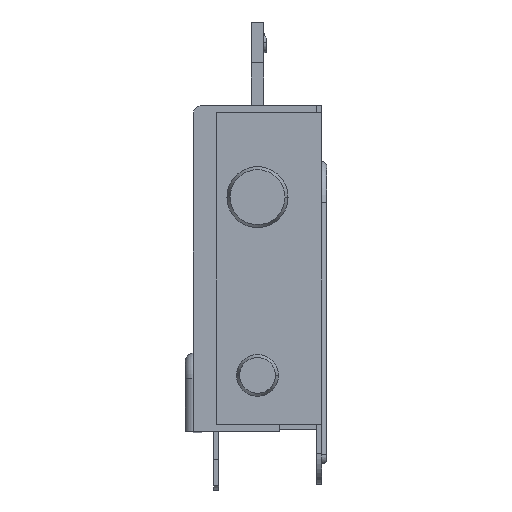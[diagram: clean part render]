
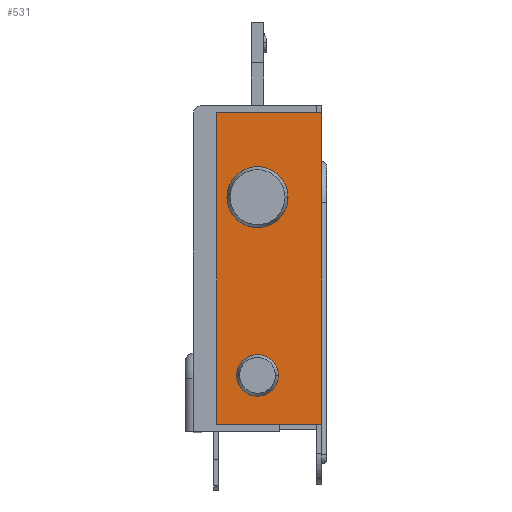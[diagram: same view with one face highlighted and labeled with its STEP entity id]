
A CAD part, left-side view. The second image highlights one B-rep face of the part: STEP entity #531.
In plain terms, the highlighted planar face has unit normal (-1, 0, 0).
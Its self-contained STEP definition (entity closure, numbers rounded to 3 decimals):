
#40 = EDGE_CURVE ( 'NONE', #3646, #3528, #9890, .T. ) ;
#92 = EDGE_CURVE ( 'NONE', #3600, #3682, #9696, .T. ) ;
#124 = EDGE_CURVE ( 'NONE', #3682, #3600, #9579, .T. ) ;
#135 = EDGE_CURVE ( 'NONE', #3698, #3578, #2607, .T. ) ;
#142 = EDGE_CURVE ( 'NONE', #3577, #3646, #2610, .T. ) ;
#170 = EDGE_CURVE ( 'NONE', #3578, #3698, #2661, .T. ) ;
#179 = EDGE_CURVE ( 'NONE', #3528, #3718, #2685, .T. ) ;
#209 = EDGE_CURVE ( 'NONE', #3718, #3577, #2465, .T. ) ;
#531 = ADVANCED_FACE ( 'NONE', ( #3024, #2976, #3009 ), #870, .T. ) ;
#870 = PLANE ( 'NONE',  #4316 ) ;
#871 = CARTESIAN_POINT ( 'NONE',  ( -65.5, -31.3, -4. ) ) ;
#879 = DIRECTION ( 'NONE',  ( -1., 0., 0. ) ) ;
#880 = DIRECTION ( 'NONE',  ( 0., 0., 1. ) ) ;
#2464 = VECTOR ( 'NONE', #4351, 1000. ) ;
#2465 = LINE ( 'NONE', #4350, #2464 ) ;
#2592 = VECTOR ( 'NONE', #4143, 1000. ) ;
#2607 = CIRCLE ( 'NONE', #4660, 3. ) ;
#2610 = LINE ( 'NONE', #4140, #2592 ) ;
#2661 = CIRCLE ( 'NONE', #4657, 3. ) ;
#2684 = VECTOR ( 'NONE', #4230, 1000. ) ;
#2685 = LINE ( 'NONE', #4217, #2684 ) ;
#2976 = FACE_BOUND ( 'NONE', #9736, .T. ) ;
#3009 = FACE_OUTER_BOUND ( 'NONE', #9783, .T. ) ;
#3024 = FACE_BOUND ( 'NONE', #9626, .T. ) ;
#3528 = VERTEX_POINT ( 'NONE', #6325 ) ;
#3577 = VERTEX_POINT ( 'NONE', #6390 ) ;
#3578 = VERTEX_POINT ( 'NONE', #6391 ) ;
#3600 = VERTEX_POINT ( 'NONE', #6418 ) ;
#3646 = VERTEX_POINT ( 'NONE', #6475 ) ;
#3682 = VERTEX_POINT ( 'NONE', #6520 ) ;
#3698 = VERTEX_POINT ( 'NONE', #6541 ) ;
#3718 = VERTEX_POINT ( 'NONE', #6566 ) ;
#3868 = CARTESIAN_POINT ( 'NONE',  ( -65.5, -0.7, 6.3 ) ) ;
#3878 = DIRECTION ( 'NONE',  ( 0., 0., -1. ) ) ;
#4025 = CARTESIAN_POINT ( 'NONE',  ( -65.5, -26.5, 0. ) ) ;
#4026 = DIRECTION ( 'NONE',  ( -1., 0., 0. ) ) ;
#4027 = DIRECTION ( 'NONE',  ( 0., 0., 1. ) ) ;
#4096 = CARTESIAN_POINT ( 'NONE',  ( -65.5, -26.5, 0. ) ) ;
#4103 = DIRECTION ( 'NONE',  ( -1., 0., 0. ) ) ;
#4104 = DIRECTION ( 'NONE',  ( 0., 0., 1. ) ) ;
#4125 = CARTESIAN_POINT ( 'NONE',  ( -65.5, -9., 0. ) ) ;
#4126 = DIRECTION ( 'NONE',  ( -1., 0., 0. ) ) ;
#4127 = DIRECTION ( 'NONE',  ( 0., 0., 1. ) ) ;
#4140 = CARTESIAN_POINT ( 'NONE',  ( -65.5, -31.3, 6.3 ) ) ;
#4143 = DIRECTION ( 'NONE',  ( 0., 1., 0. ) ) ;
#4208 = CARTESIAN_POINT ( 'NONE',  ( -65.5, -9., 0. ) ) ;
#4210 = DIRECTION ( 'NONE',  ( -1., 0., 0. ) ) ;
#4211 = DIRECTION ( 'NONE',  ( 0., 0., 1. ) ) ;
#4217 = CARTESIAN_POINT ( 'NONE',  ( -65.5, -0.7, -4. ) ) ;
#4230 = DIRECTION ( 'NONE',  ( 0., -1., 0. ) ) ;
#4316 = AXIS2_PLACEMENT_3D ( 'NONE', #871, #879, #880 ) ;
#4350 = CARTESIAN_POINT ( 'NONE',  ( -65.5, -31.3, -4. ) ) ;
#4351 = DIRECTION ( 'NONE',  ( 0., 0., 1. ) ) ;
#4657 = AXIS2_PLACEMENT_3D ( 'NONE', #4208, #4210, #4211 ) ;
#4660 = AXIS2_PLACEMENT_3D ( 'NONE', #4125, #4126, #4127 ) ;
#4663 = AXIS2_PLACEMENT_3D ( 'NONE', #4096, #4103, #4104 ) ;
#4690 = AXIS2_PLACEMENT_3D ( 'NONE', #4025, #4026, #4027 ) ;
#6325 = CARTESIAN_POINT ( 'NONE',  ( -65.5, -0.7, -4. ) ) ;
#6390 = CARTESIAN_POINT ( 'NONE',  ( -65.5, -31.3, 6.3 ) ) ;
#6391 = CARTESIAN_POINT ( 'NONE',  ( -65.5, -9., -3. ) ) ;
#6418 = CARTESIAN_POINT ( 'NONE',  ( -65.5, -26.5, 2.05 ) ) ;
#6475 = CARTESIAN_POINT ( 'NONE',  ( -65.5, -0.7, 6.3 ) ) ;
#6520 = CARTESIAN_POINT ( 'NONE',  ( -65.5, -26.5, -2.05 ) ) ;
#6541 = CARTESIAN_POINT ( 'NONE',  ( -65.5, -9., 3. ) ) ;
#6566 = CARTESIAN_POINT ( 'NONE',  ( -65.5, -31.3, -4. ) ) ;
#8199 = ORIENTED_EDGE ( 'NONE', *, *, #209, .T. ) ;
#8200 = ORIENTED_EDGE ( 'NONE', *, *, #135, .F. ) ;
#8201 = ORIENTED_EDGE ( 'NONE', *, *, #179, .T. ) ;
#8204 = ORIENTED_EDGE ( 'NONE', *, *, #92, .F. ) ;
#8205 = ORIENTED_EDGE ( 'NONE', *, *, #170, .F. ) ;
#8206 = ORIENTED_EDGE ( 'NONE', *, *, #124, .F. ) ;
#8241 = ORIENTED_EDGE ( 'NONE', *, *, #40, .T. ) ;
#8246 = ORIENTED_EDGE ( 'NONE', *, *, #142, .T. ) ;
#9579 = CIRCLE ( 'NONE', #4663, 2.05 ) ;
#9626 = EDGE_LOOP ( 'NONE', ( #8206, #8204 ) ) ;
#9696 = CIRCLE ( 'NONE', #4690, 2.05 ) ;
#9736 = EDGE_LOOP ( 'NONE', ( #8205, #8200 ) ) ;
#9783 = EDGE_LOOP ( 'NONE', ( #8201, #8199, #8246, #8241 ) ) ;
#9890 = LINE ( 'NONE', #3868, #9902 ) ;
#9902 = VECTOR ( 'NONE', #3878, 1000. ) ;
